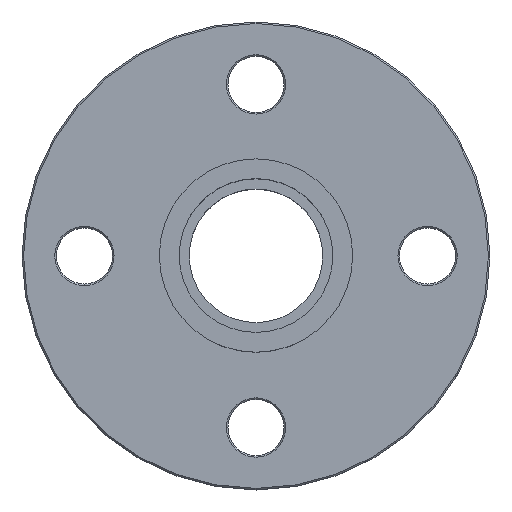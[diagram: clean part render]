
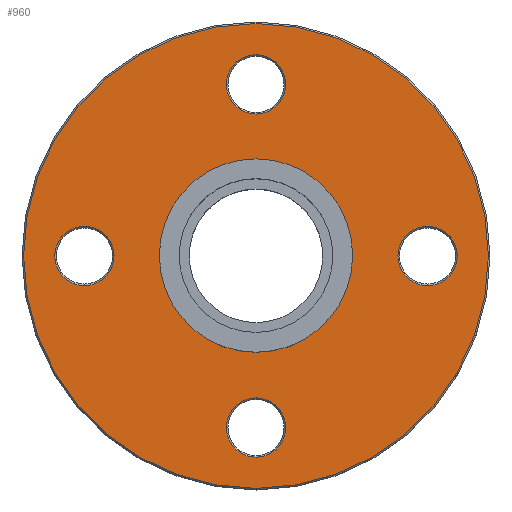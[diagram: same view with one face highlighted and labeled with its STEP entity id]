
A CAD part, top view. The second image highlights one B-rep face of the part: STEP entity #960.
In plain terms, the highlighted planar face has unit normal (0, 0, 1) as drawn and (0, 0, -1) by its records, which use the part's own axes.
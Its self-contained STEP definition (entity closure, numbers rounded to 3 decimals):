
#10=CARTESIAN_POINT('',(0.,0.,0.));
#20=DIRECTION('',(0.,0.,1.));
#30=DIRECTION('',(1.,0.,0.));
#40=AXIS2_PLACEMENT_3D('',#10,#20,#30);
#50=PLANE('',#40);
#60=CARTESIAN_POINT('',(110.,110.,0.));
#70=DIRECTION('',(0.,0.,-1.));
#80=DIRECTION('',(-0.,1.,0.));
#90=AXIS2_PLACEMENT_3D('',#60,#70,#80);
#100=CIRCLE('',#90,25.);
#110=CARTESIAN_POINT('',(110.,135.,0.));
#120=VERTEX_POINT('',#110);
#130=CARTESIAN_POINT('',(110.,85.,0.));
#140=VERTEX_POINT('',#130);
#150=EDGE_CURVE('',#120,#140,#100,.T.);
#160=ORIENTED_EDGE('',*,*,#150,.F.);
#170=EDGE_CURVE('',#140,#120,#100,.T.);
#180=ORIENTED_EDGE('',*,*,#170,.F.);
#190=EDGE_LOOP('',(#180,#160));
#200=FACE_BOUND('',#190,.T.);
#210=CARTESIAN_POINT('',(55.,110.,0.));
#220=DIRECTION('',(0.,0.,1.));
#230=DIRECTION('',(1.,0.,0.));
#240=AXIS2_PLACEMENT_3D('',#210,#220,#230);
#250=CIRCLE('',#240,9.5);
#260=CARTESIAN_POINT('',(64.5,110.,0.));
#270=VERTEX_POINT('',#260);
#280=CARTESIAN_POINT('',(45.5,110.,0.));
#290=VERTEX_POINT('',#280);
#300=EDGE_CURVE('',#270,#290,#250,.T.);
#310=ORIENTED_EDGE('',*,*,#300,.T.);
#320=EDGE_CURVE('',#290,#270,#250,.T.);
#330=ORIENTED_EDGE('',*,*,#320,.T.);
#340=EDGE_LOOP('',(#330,#310));
#350=FACE_BOUND('',#340,.T.);
#360=CARTESIAN_POINT('',(110.,55.,0.));
#370=DIRECTION('',(0.,0.,1.));
#380=DIRECTION('',(1.,0.,0.));
#390=AXIS2_PLACEMENT_3D('',#360,#370,#380);
#400=CIRCLE('',#390,9.5);
#410=CARTESIAN_POINT('',(119.5,55.,0.));
#420=VERTEX_POINT('',#410);
#430=CARTESIAN_POINT('',(100.5,55.,0.));
#440=VERTEX_POINT('',#430);
#450=EDGE_CURVE('',#420,#440,#400,.T.);
#460=ORIENTED_EDGE('',*,*,#450,.T.);
#470=EDGE_CURVE('',#440,#420,#400,.T.);
#480=ORIENTED_EDGE('',*,*,#470,.T.);
#490=EDGE_LOOP('',(#480,#460));
#500=FACE_BOUND('',#490,.T.);
#510=CARTESIAN_POINT('',(165.,110.,0.));
#520=DIRECTION('',(0.,0.,1.));
#530=DIRECTION('',(1.,0.,0.));
#540=AXIS2_PLACEMENT_3D('',#510,#520,#530);
#550=CIRCLE('',#540,9.5);
#560=CARTESIAN_POINT('',(174.5,110.,0.));
#570=VERTEX_POINT('',#560);
#580=CARTESIAN_POINT('',(155.5,110.,0.));
#590=VERTEX_POINT('',#580);
#600=EDGE_CURVE('',#570,#590,#550,.T.);
#610=ORIENTED_EDGE('',*,*,#600,.T.);
#620=EDGE_CURVE('',#590,#570,#550,.T.);
#630=ORIENTED_EDGE('',*,*,#620,.T.);
#640=EDGE_LOOP('',(#630,#610));
#650=FACE_BOUND('',#640,.T.);
#660=CARTESIAN_POINT('',(110.,165.,0.));
#670=DIRECTION('',(0.,0.,1.));
#680=DIRECTION('',(1.,0.,0.));
#690=AXIS2_PLACEMENT_3D('',#660,#670,#680);
#700=CIRCLE('',#690,9.5);
#710=CARTESIAN_POINT('',(119.5,165.,0.));
#720=VERTEX_POINT('',#710);
#730=CARTESIAN_POINT('',(100.5,165.,0.));
#740=VERTEX_POINT('',#730);
#750=EDGE_CURVE('',#720,#740,#700,.T.);
#760=ORIENTED_EDGE('',*,*,#750,.T.);
#770=EDGE_CURVE('',#740,#720,#700,.T.);
#780=ORIENTED_EDGE('',*,*,#770,.T.);
#790=EDGE_LOOP('',(#780,#760));
#800=FACE_BOUND('',#790,.T.);
#810=CARTESIAN_POINT('',(110.,110.,0.));
#820=DIRECTION('',(0.,0.,1.));
#830=DIRECTION('',(1.,0.,0.));
#840=AXIS2_PLACEMENT_3D('',#810,#820,#830);
#850=CIRCLE('',#840,74.5);
#860=CARTESIAN_POINT('',(184.5,110.,0.));
#870=VERTEX_POINT('',#860);
#880=CARTESIAN_POINT('',(35.5,110.,0.));
#890=VERTEX_POINT('',#880);
#900=EDGE_CURVE('',#870,#890,#850,.T.);
#910=ORIENTED_EDGE('',*,*,#900,.F.);
#920=EDGE_CURVE('',#890,#870,#850,.T.);
#930=ORIENTED_EDGE('',*,*,#920,.F.);
#940=EDGE_LOOP('',(#930,#910));
#950=FACE_OUTER_BOUND('',#940,.T.);
#960=ADVANCED_FACE('',(#200,#350,#500,#650,#800,#950),#50,.F.);
